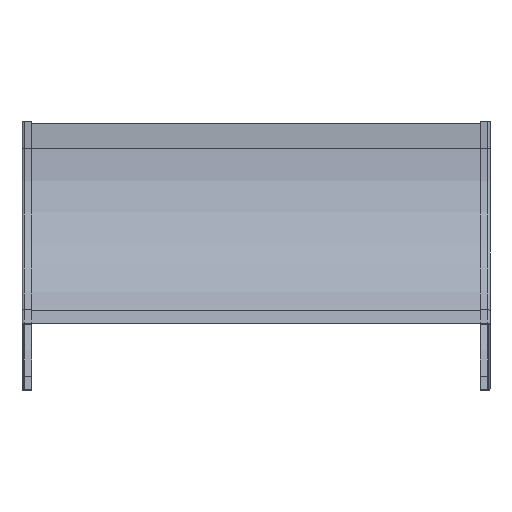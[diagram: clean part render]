
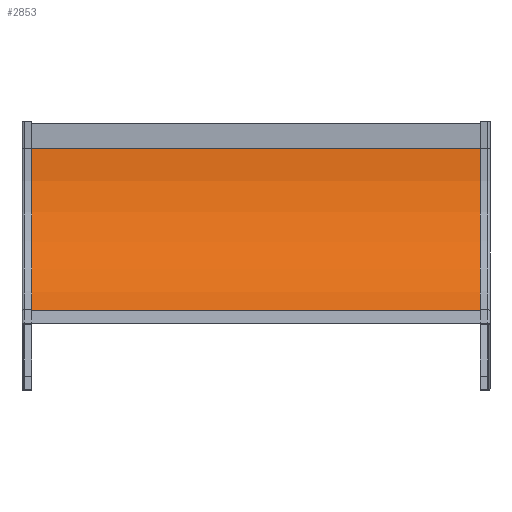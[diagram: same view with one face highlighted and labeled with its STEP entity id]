
A CAD part, front view. The second image highlights one B-rep face of the part: STEP entity #2853.
In plain terms, the highlighted cylindrical face has radius 306.832 mm (diameter 613.664 mm), a partial arc.
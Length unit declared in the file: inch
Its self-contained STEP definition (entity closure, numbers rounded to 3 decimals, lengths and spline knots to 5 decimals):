
#2687=DIRECTION('',(-1.,0.,0.));
#2688=VECTOR('',#2687,29.875);
#2689=CARTESIAN_POINT('',(14.9375,0.,0.));
#2690=LINE('',#2689,#2688);
#2691=CARTESIAN_POINT('',(14.9375,12.08,0.));
#2692=DIRECTION('',(-1.,0.,0.));
#2693=DIRECTION('',(0.,-1.,0.));
#2694=AXIS2_PLACEMENT_3D('',#2691,#2692,#2693);
#2717=CARTESIAN_POINT('',(-14.9375,12.08,0.));
#2718=DIRECTION('',(-1.,0.,0.));
#2719=DIRECTION('',(0.,-1.,0.));
#2720=AXIS2_PLACEMENT_3D('',#2717,#2718,#2719);
#2743=DIRECTION('',(-1.,0.,0.));
#2744=VECTOR('',#2743,29.875);
#2745=CARTESIAN_POINT('',(14.9375,6.04,10.46159));
#2746=LINE('',#2745,#2744);
#2791=CARTESIAN_POINT('',(14.9375,0.,0.));
#2793=VERTEX_POINT('',#2791);
#2797=CARTESIAN_POINT('',(-14.9375,0.,0.));
#2798=VERTEX_POINT('',#2797);
#2807=CARTESIAN_POINT('',(14.9375,6.04,10.46159));
#2808=VERTEX_POINT('',#2807);
#2811=CARTESIAN_POINT('',(-14.9375,6.04,10.46159));
#2812=VERTEX_POINT('',#2811);
#2839=CARTESIAN_POINT('',(14.9375,12.08,0.));
#2840=DIRECTION('',(-1.,0.,0.));
#2841=DIRECTION('',(0.,0.,1.));
#2842=AXIS2_PLACEMENT_3D('',#2839,#2840,#2841);
#2843=CYLINDRICAL_SURFACE('',#2842,12.08);
#2845=ORIENTED_EDGE('',*,*,#2844,.T.);
#2847=ORIENTED_EDGE('',*,*,#2846,.T.);
#2849=ORIENTED_EDGE('',*,*,#2848,.F.);
#2850=ORIENTED_EDGE('',*,*,#2828,.F.);
#2851=EDGE_LOOP('',(#2845,#2847,#2849,#2850));
#2852=FACE_OUTER_BOUND('',#2851,.F.);
#2853=ADVANCED_FACE('',(#2852),#2843,.F.);
#2695=CIRCLE('',#2694,12.08);
#2721=CIRCLE('',#2720,12.08);
#2828=EDGE_CURVE('',#2793,#2798,#2690,.T.);
#2844=EDGE_CURVE('',#2793,#2808,#2695,.T.);
#2846=EDGE_CURVE('',#2808,#2812,#2746,.T.);
#2848=EDGE_CURVE('',#2798,#2812,#2721,.T.);
